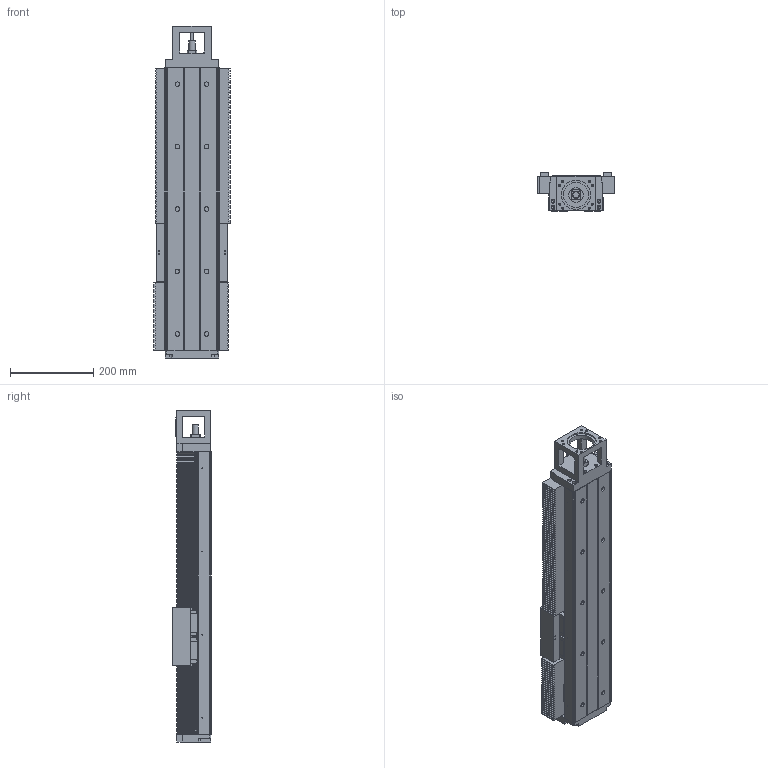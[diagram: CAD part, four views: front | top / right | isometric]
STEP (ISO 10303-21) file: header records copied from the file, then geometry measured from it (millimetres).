
FILE_DESCRIPTION(/* description */ (''),/* implementation_level */ '2;1');
FILE_NAME(/* name */ 'TKK130-680A1F0B.stp',/* time_stamp */ '2017-01-22T15:30:27+08:00',/* author */ (''),/* organization */ (''),/* preprocessor_version */ 'ST-DEVELOPER v15',/* originating_system */ 'SIEMENS PLM Software NX 8.5',/* authorisation */ '');
FILE_SCHEMA (('AUTOMOTIVE_DESIGN { 1 0 10303 214 3 1 1 1 }'));
Length unit declared in the file: millimetre
Products named in the file (3): 022; 011; TKK130-680A1F0B
Assembly tree (2 placements, depth 2):
  TKK130-680A1F0B
    011
    022
Bounding box: 184 x 92 x 798 mm (x, y, z)
Volume: 7686400.7 mm3; surface area: 989384.8 mm2
Topology: 4 solids, 14 shells, 1794 faces, 4522 edges, 2807 vertices
Faces by surface type: plane 1393, cylinder 272, cone 89, extrusion 33, bspline 6, torus 1
Full cylindrical faces by diameter (mm): 2.1 x8, 2.5 x8, 3.3 x26, 4.5 x20, 5 x23, 6.6 x10, 6.8 x12, 7 x2, 8 x16, 8.5 x4, 9 x8, 11 x18, 12 x4, 15 x1, 16.3 x1, 17 x12, 17.5 x4, 25 x1, 35 x2, 40 x3, 60.03 x1, 70.03 x1
Entity records: 52023 total; most frequent: CARTESIAN_POINT 10412, ORIENTED_EDGE 8088, DIRECTION 8029, EDGE_CURVE 4044, VECTOR 3281, LINE 3248, VERTEX_POINT 2668, AXIS2_PLACEMENT_3D 2374
